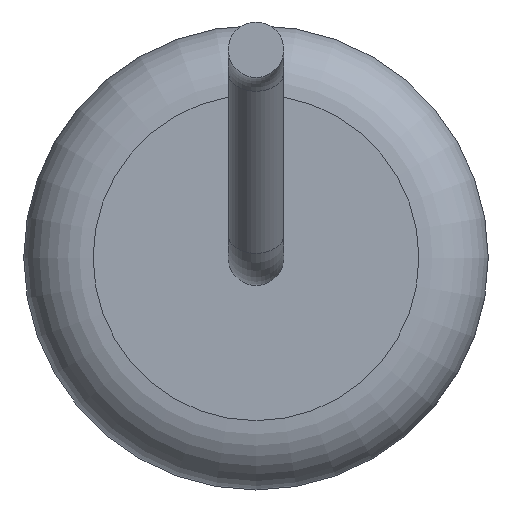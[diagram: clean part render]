
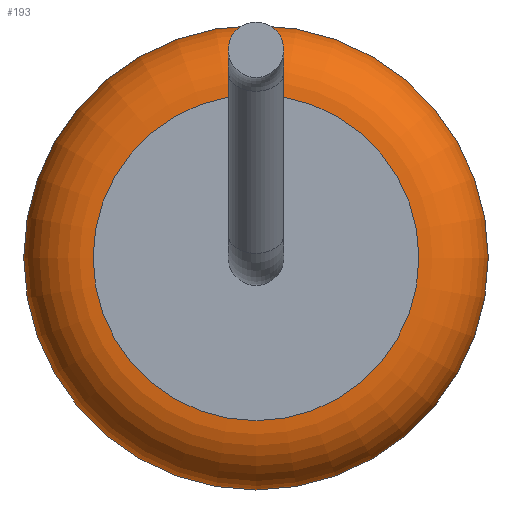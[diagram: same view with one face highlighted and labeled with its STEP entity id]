
A CAD part, left-side view. The second image highlights one B-rep face of the part: STEP entity #193.
In plain terms, the highlighted toroidal (fillet/blend) face has major radius 2.35 mm and minor radius 1 mm.
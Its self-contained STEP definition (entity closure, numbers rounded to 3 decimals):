
#193=ADVANCED_FACE('',(#398,#400),#402,.T.);
#398=FACE_OUTER_BOUND('',#399,.T.);
#399=EDGE_LOOP('',(#497));
#400=FACE_OUTER_BOUND('',#401,.T.);
#401=EDGE_LOOP('',(#498));
#402=TOROIDAL_SURFACE('',#403,2.35,1.);
#403=AXIS2_PLACEMENT_3D('',#404,#405,#406);
#404=CARTESIAN_POINT('',(-5.5,0.,0.));
#405=DIRECTION('',(-1.,0.,0.));
#406=DIRECTION('',(0.,0.,1.));
#497=ORIENTED_EDGE('',*,*,#526,.T.);
#498=ORIENTED_EDGE('',*,*,#527,.F.);
#526=EDGE_CURVE('',#562,#562,#563,.T.);
#527=EDGE_CURVE('',#564,#564,#565,.T.);
#562=VERTEX_POINT('',#648);
#563=CIRCLE('',#649,3.35);
#564=VERTEX_POINT('',#653);
#565=CIRCLE('',#654,2.35);
#648=CARTESIAN_POINT('',(-5.5,0.,3.35));
#649=AXIS2_PLACEMENT_3D('',#650,#651,#652);
#650=CARTESIAN_POINT('',(-5.5,0.,0.));
#651=DIRECTION('',(-1.,0.,0.));
#652=DIRECTION('',(0.,0.,1.));
#653=CARTESIAN_POINT('',(-6.5,0.,2.35));
#654=AXIS2_PLACEMENT_3D('',#655,#656,#657);
#655=CARTESIAN_POINT('',(-6.5,0.,0.));
#656=DIRECTION('',(-1.,0.,0.));
#657=DIRECTION('',(0.,0.,1.));
